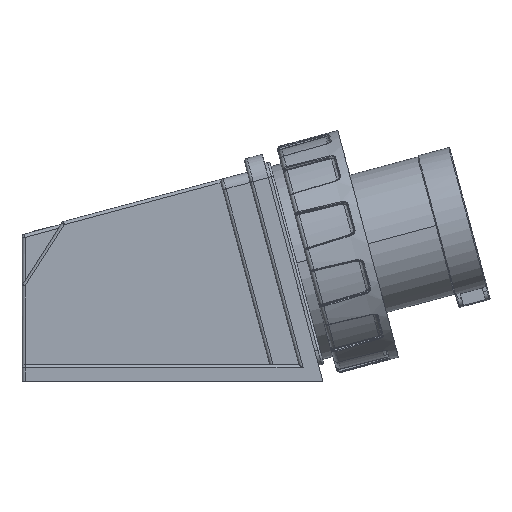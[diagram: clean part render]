
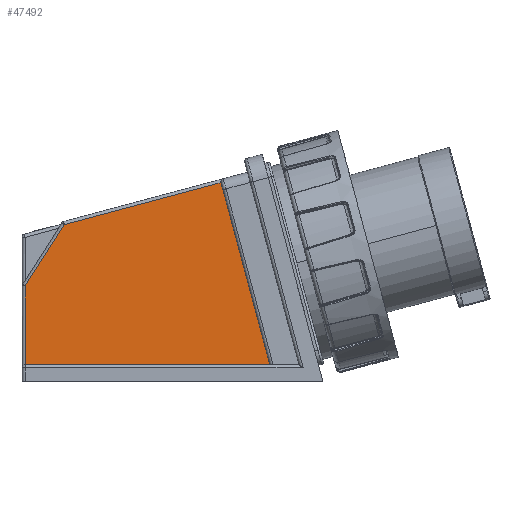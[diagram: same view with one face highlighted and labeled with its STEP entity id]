
A CAD part, left-side view. The second image highlights one B-rep face of the part: STEP entity #47492.
In plain terms, the highlighted planar face has unit normal (-1, 0, 0).
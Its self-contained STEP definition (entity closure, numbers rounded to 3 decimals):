
#45946 = VERTEX_POINT('',#45947);
#45947 = CARTESIAN_POINT('',(-42.5,70.5,45.716));
#45963 = VERTEX_POINT('',#45964);
#45964 = CARTESIAN_POINT('',(-42.5,70.5,8.));
#45971 = EDGE_CURVE('',#45946,#45963,#45972,.T.);
#45972 = LINE('',#45973,#45974);
#45973 = CARTESIAN_POINT('',(-42.5,70.5,26.858));
#45974 = VECTOR('',#45975,1.);
#45975 = DIRECTION('',(0.,0.,-1.));
#47466 = VERTEX_POINT('',#47467);
#47467 = CARTESIAN_POINT('',(-42.5,-23.22,
    95.116));
#47473 = EDGE_CURVE('',#47474,#47466,#47476,.T.);
#47474 = VERTEX_POINT('',#47475);
#47475 = CARTESIAN_POINT('',(-42.5,-46.563,8.));
#47476 = LINE('',#47477,#47478);
#47477 = CARTESIAN_POINT('',(-42.5,-34.891,51.558));
#47478 = VECTOR('',#47479,1.);
#47479 = DIRECTION('',(0.,0.259,0.966));
#47492 = ADVANCED_FACE('',(#47493),#47517,.F.);
#47493 = FACE_BOUND('',#47494,.T.);
#47494 = EDGE_LOOP('',(#47495,#47496,#47504,#47510,#47511));
#47495 = ORIENTED_EDGE('',*,*,#47473,.T.);
#47496 = ORIENTED_EDGE('',*,*,#47497,.T.);
#47497 = EDGE_CURVE('',#47466,#47498,#47500,.T.);
#47498 = VERTEX_POINT('',#47499);
#47499 = CARTESIAN_POINT('',(-42.5,51.732,75.033));
#47500 = LINE('',#47501,#47502);
#47501 = CARTESIAN_POINT('',(-42.5,-263.907,159.608));
#47502 = VECTOR('',#47503,1.);
#47503 = DIRECTION('',(0.,0.966,-0.259));
#47504 = ORIENTED_EDGE('',*,*,#47505,.T.);
#47505 = EDGE_CURVE('',#47498,#45946,#47506,.T.);
#47506 = LINE('',#47507,#47508);
#47507 = CARTESIAN_POINT('',(-42.5,-73.163,270.124));
#47508 = VECTOR('',#47509,1.);
#47509 = DIRECTION('',(0.,0.539,-0.842));
#47510 = ORIENTED_EDGE('',*,*,#45971,.T.);
#47511 = ORIENTED_EDGE('',*,*,#47512,.F.);
#47512 = EDGE_CURVE('',#47474,#45963,#47513,.T.);
#47513 = LINE('',#47514,#47515);
#47514 = CARTESIAN_POINT('',(-42.5,11.969,8.));
#47515 = VECTOR('',#47516,1.);
#47516 = DIRECTION('',(0.,1.,0.));
#47517 = PLANE('',#47518);
#47518 = AXIS2_PLACEMENT_3D('',#47519,#47520,#47521);
#47519 = CARTESIAN_POINT('',(-42.5,0.,0.));
#47520 = DIRECTION('',(1.,0.,0.));
#47521 = DIRECTION('',(-0.,1.,0.));
